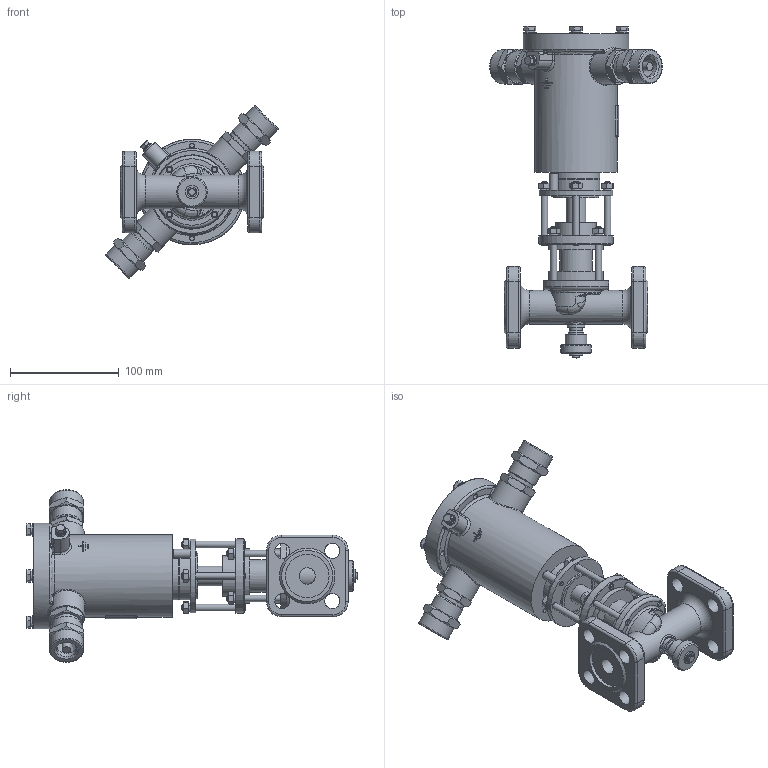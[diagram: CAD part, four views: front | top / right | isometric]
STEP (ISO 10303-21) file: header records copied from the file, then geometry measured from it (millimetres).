
FILE_DESCRIPTION(('STEP AP203'), '1');
FILE_NAME('ÑÅÍÑ DN15PN25-Â-200Ñ.stp', '2018-09-19T08:48:52', ('Îðëîâ Å.Â.'), ('ÎÎÎ ÍÏÏ Ñåíñîð'), 'ASCON STEP Converter 1.3', 'Kompas 3D', '');
FILE_SCHEMA(('CONFIG_CONTROL_DESIGN','SUPPORT_RESOURCE_SCHEMA'));
Length unit declared in the file: millimetre
Products named in the file (1): 65
Bounding box: 158.26 x 304.7 x 158.26 mm (x, y, z)
Volume: 708034.1 mm3; surface area: 235244.6 mm2
Topology: 3 solids, 19 shells, 2116 faces, 5542 edges, 3591 vertices
Faces by surface type: cylinder 1058, plane 801, cone 161, torus 46, bspline 34, extrusion 16
Full cylindrical faces by diameter (mm): 2.459 x4, 4 x8, 4.134 x1, 4.5 x2, 4.917 x4, 5 x2, 5.1 x1, 6 x28, 6.1 x1, 6.3 x2, 6.4 x1, 6.5 x15, 7 x1, 8 x7, 9 x1, 10 x3, 11 x1, 11.5 x1, 12 x5, 12.376 x1, 13 x2, 14 x9, 15 x4, 16 x1, 16.5 x1, 18 x1, 18.5 x1, 18.632 x2, 20 x3, 21 x1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
Entity records: 81516 total; most frequent: CARTESIAN_POINT 28171, DIRECTION 11589, ORIENTED_EDGE 11012, EDGE_CURVE 5506, AXIS2_PLACEMENT_3D 4489, VERTEX_POINT 3581, VECTOR 2611, LINE 2595
